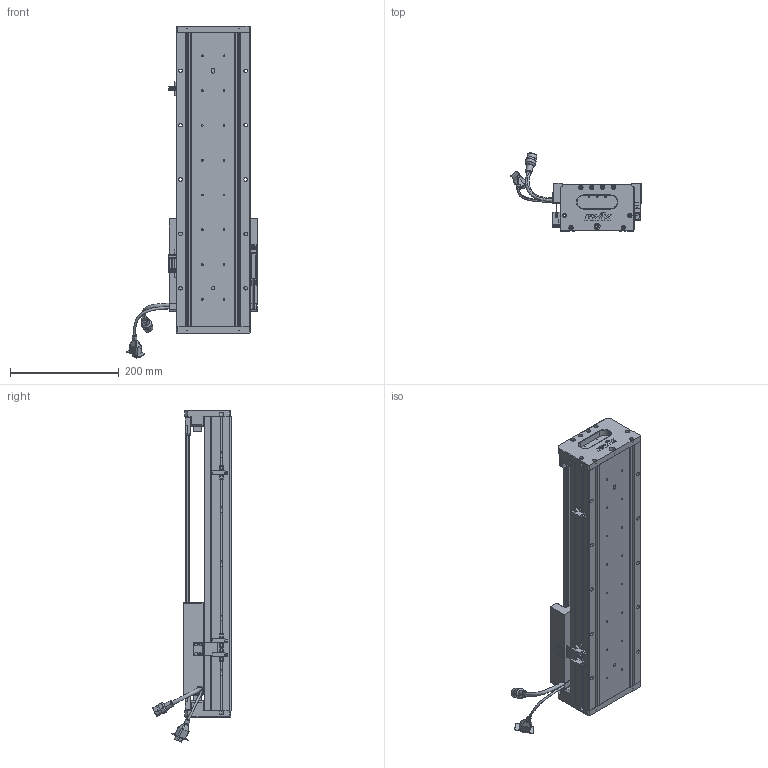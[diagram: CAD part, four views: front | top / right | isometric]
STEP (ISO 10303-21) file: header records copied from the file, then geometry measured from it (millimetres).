
FILE_DESCRIPTION (( 'STEP AP203' ), '1' );
FILE_NAME ('Z2-RY140D-1-L500-B-K.SLDASM_0300.step', '2021-05-17T07:44:42', ( '盈信电脑' ), ( '东莞市道滘镇水果街19号' ), 'SwSTEP 2.0', 'SolidWorks 2016', '' );
FILE_SCHEMA (( 'CONFIG_CONTROL_DESIGN' ));
Length unit declared in the file: millimetre
Products named in the file (36): Z2-RY140圉猾敕臏賑輸(21遴); SCREW-M1.6-1; SCALE-Part-1; SHIELDPLATE; Z2-RY140-L500詩湍100mm遵_0300; SCREW-M1.6; COVER-Part-1; LABEL; SCALE-Part-2; Z2-RY140D-1-L500-B-K.SLDASM_0300; SCREW-M1.7-1; Z-RY140詩湍奻揤裔; Z-140詩湍傷裔啣; SCREW-M1.6-2; Z2-RY140-L500直线电机模组底座_0300; 覜茼ん672; COVER; SCREW-M1.7; HARNESS-Part-2; SEAL-Part-1; HARNESS-Part-1; 140雄赽晤鎢ん堤盄; PBU_SHEET; SCREW-M1.6-3; 140蚥薯蝶輸; LABEL-Part-1; HARNESS; PSLH080_PSLF2; SEAL; 080黍杅芛假蚾釱21遴; Z-RY140詩湍狟揤裔; HOLDER0; 140-Z-臏賑輸盄裔(21遴); SCALE; Z-RY140感应器672光电感应片; 榋妏寠巭燃_暯_M2_2
Assembly tree (41 placements, depth 4):
  Z2-RY140D-1-L500-B-K.SLDASM_0300
    Z2-RY140-L500直线电机模组底座_0300
    Z-RY140感应器672光电感应片
    Z2-RY140圉猾敕臏賑輸(21遴)
    覜茼ん672  x3
    Z2-RY140-L500詩湍100mm遵_0300
    PSLH080_PSLF2
      SCALE
        SCALE-Part-1
        SCALE-Part-2
      HARNESS
        HARNESS-Part-1
        HARNESS-Part-2
      LABEL
        LABEL-Part-1
      COVER
        COVER-Part-1
      SEAL
        SEAL-Part-1
      榋妏寠巭燃_暯_M2_2
      SHIELDPLATE
      SCREW-M1.7
      SCREW-M1.7-1
      PBU_SHEET
      SCREW-M1.6
      SCREW-M1.6-1
      SCREW-M1.6-2
      SCREW-M1.6-3
      HOLDER0
    080黍杅芛假蚾釱21遴
    140-Z-臏賑輸盄裔(21遴)
    Z-140詩湍傷裔啣  x2
    Z-RY140詩湍狟揤裔  x2
    Z-RY140詩湍奻揤裔  x2
    140蚥薯蝶輸  x2
    140雄赽晤鎢ん堤盄
Bounding box: 239.84 x 143.77 x 610.88 mm (x, y, z)
Volume: 2538308.5 mm3; surface area: 664936.3 mm2
Topology: 36 solids, 36 shells, 2584 faces, 6708 edges, 4247 vertices
Faces by surface type: cylinder 1130, plane 1072, cone 250, torus 79, bspline 53
Entity records: 72792 total; most frequent: CARTESIAN_POINT 17283, DIRECTION 10884, ORIENTED_EDGE 10624, EDGE_CURVE 5312, AXIS2_PLACEMENT_3D 3984, VERTEX_POINT 3415, LINE 2916, VECTOR 2916
